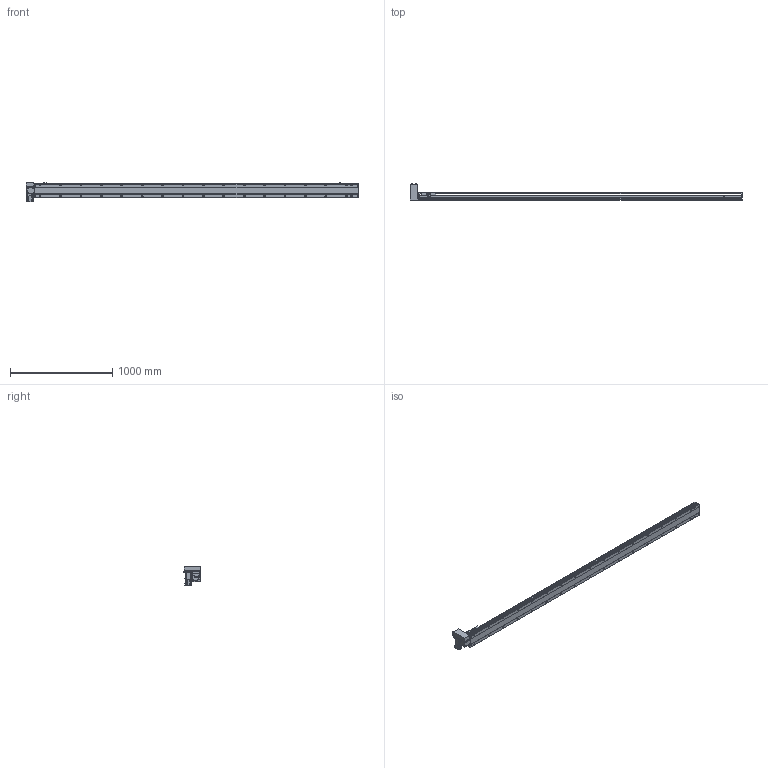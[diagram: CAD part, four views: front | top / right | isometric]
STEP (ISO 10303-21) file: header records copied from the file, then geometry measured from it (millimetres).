
FILE_DESCRIPTION( ( 'STEP AP214' ), '1' );
FILE_NAME( 'x:/temp/worker_3/temp/exporttempdir_5796_29_gWau0/format_0/PBS140-P40-S2900-RU-T40-C1-N(0).stp', '2022-06-07T05:57:28', ( 'License CC BY-ND 4.0' ), ( 'CADENAS' ), ' ', 'PARTsolutions', ' ' );
FILE_SCHEMA( ( 'AUTOMOTIVE_DESIGN { 1 0 10303 214 1 1 1 1 }' ) );
Length unit declared in the file: millimetre
Products named in the file (7): PBS140-P40-S2900-RU-T40-C1-N(0); _PBS140-S2900()_body; _PBS140T-RU_motors; _T40-p1; _PBS140_sliser; _PBS140_plant; _PBS140_sensor
Assembly tree (8 placements, depth 2):
  PBS140-P40-S2900-RU-T40-C1-N(0)
    _PBS140-S2900()_body
    _PBS140T-RU_motors
    _T40-p1
    _PBS140_sliser
    _PBS140_plant
    _PBS140_sensor  x3
Bounding box: 3254 x 162.5 x 189.7 mm (x, y, z)
Volume: 14475542.9 mm3; surface area: 2458135.3 mm2
Topology: 8 solids, 8 shells, 1219 faces, 3196 edges, 2087 vertices
Faces by surface type: plane 746, cylinder 403, cone 60, sphere 8, torus 2
Full cylindrical faces by diameter (mm): 3.242 x4, 4 x2, 4.134 x4, 4.4 x8, 4.5 x2, 4.8 x4, 4.917 x42, 5.5 x7, 6 x2, 7 x36, 7.5 x8, 8 x12, 8.5 x4, 10.5 x34, 14 x1, 30 x2, 50 x2
Entity records: 45067 total; most frequent: CARTESIAN_POINT 7763, DIRECTION 5827, ORIENTED_EDGE 5452, EDGE_CURVE 2726, AXIS2_PLACEMENT_3D 2077, VERTEX_POINT 1917, LINE 1673, VECTOR 1673
